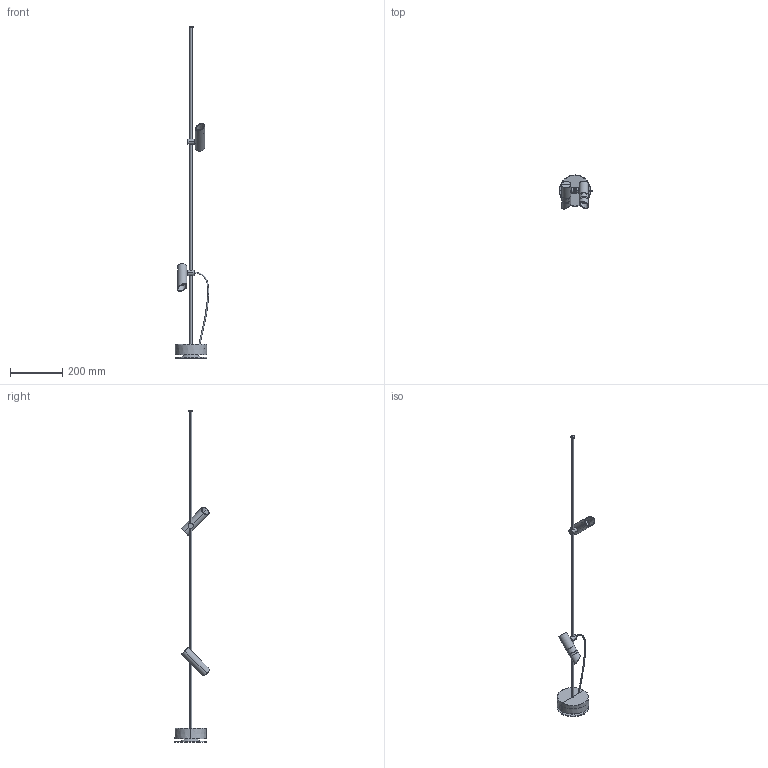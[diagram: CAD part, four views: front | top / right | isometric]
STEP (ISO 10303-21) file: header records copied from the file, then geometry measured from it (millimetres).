
FILE_DESCRIPTION(/* description */ (''),/* implementation_level */ '2;1');
FILE_NAME(/* name */ 'clap_1266_beacon.step',/* time_stamp */ '2025-02-26T11:33:21+01:00',/* author */ ('RenataManzini'),/* organization */ (''),/* preprocessor_version */ 'ST-DEVELOPER v20',/* originating_system */ 'AutoCAD Mechanical',/* authorisation */ '');
FILE_SCHEMA (('AUTOMOTIVE_DESIGN { 1 0 10303 214 3 1 1 }'));
Length unit declared in the file: millimetre
Products named in the file (4): Product; CLAP_ pantalla_l - CLAP Accesorio pantalla L negro-489746-_3D_; CLAP_ pantalla_s - CLAP Accesorio pantalla S negro-489808-_3D_; CLAP_ lamp - CLAP Proyector-489792-_3D_
Assembly tree (5 placements, depth 2):
  Product
    CLAP_ pantalla_s - CLAP Accesorio pantalla S negro-489808-_3D_  x2
    CLAP_ lamp - CLAP Proyector-489792-_3D_  x2
    CLAP_ pantalla_l - CLAP Accesorio pantalla L negro-489746-_3D_
Bounding box: 127.3 x 130.41 x 1266 mm (x, y, z)
Volume: 540446.6 mm3; surface area: 188480.1 mm2
Topology: 11 solids, 12 shells, 116 faces, 201 edges, 113 vertices
Faces by surface type: plane 60, cylinder 34, cone 18, torus 2, bspline 2
Entity records: 3257 total; most frequent: CARTESIAN_POINT 1654, DIRECTION 358, ORIENTED_EDGE 268, AXIS2_PLACEMENT_3D 149, EDGE_CURVE 134, EDGE_LOOP 82, FACE_OUTER_BOUND 79, ADVANCED_FACE 79
